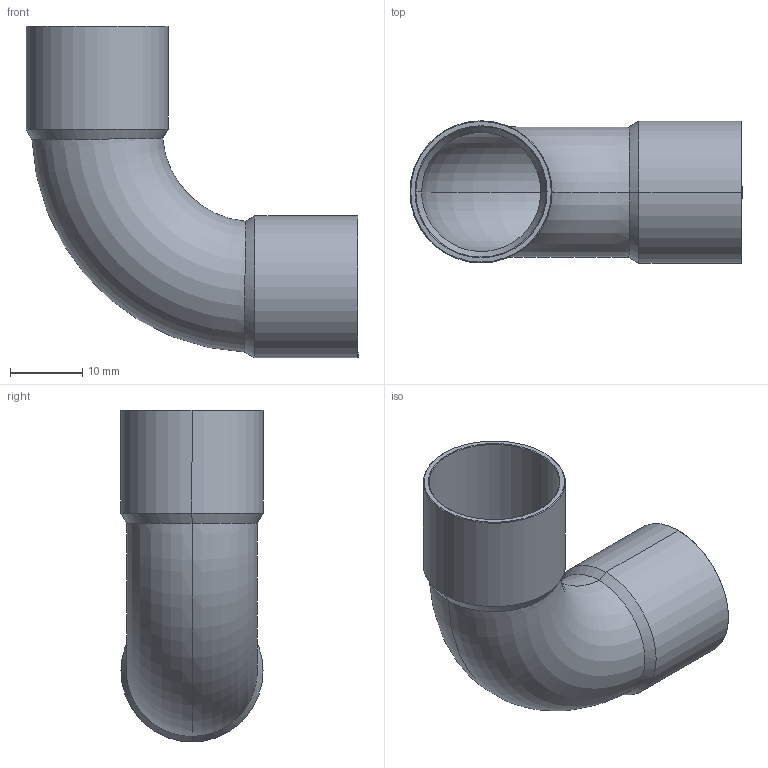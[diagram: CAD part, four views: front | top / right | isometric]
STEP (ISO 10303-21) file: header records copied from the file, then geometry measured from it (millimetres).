
FILE_DESCRIPTION((''),'2;1');
FILE_NAME('D:\5002\15002a18.stp','2005-10-04T11:31:37',('Kris'),(''),'Autodesk Inventor 8','Autodesk Inventor 8','');
FILE_SCHEMA(('AUTOMOTIVE_DESIGN { 1 0 10303 214 1 1 1 1 }'));
Length unit declared in the file: millimetre
Products named in the file (1): 15002a18
Bounding box: 45.8 x 19.6 x 45.8 mm (x, y, z)
Volume: 2848.7 mm3; surface area: 7205.3 mm2
Topology: 1 solids, 1 shells, 30 faces, 60 edges, 32 vertices
Faces by surface type: cone 12, bspline 9, torus 4, cylinder 4, plane 1
Entity records: 1027 total; most frequent: CARTESIAN_POINT 414, DIRECTION 124, ORIENTED_EDGE 120, EDGE_CURVE 60, AXIS2_PLACEMENT_3D 50, VERTEX_POINT 32, EDGE_LOOP 32, FACE_OUTER_BOUND 30
